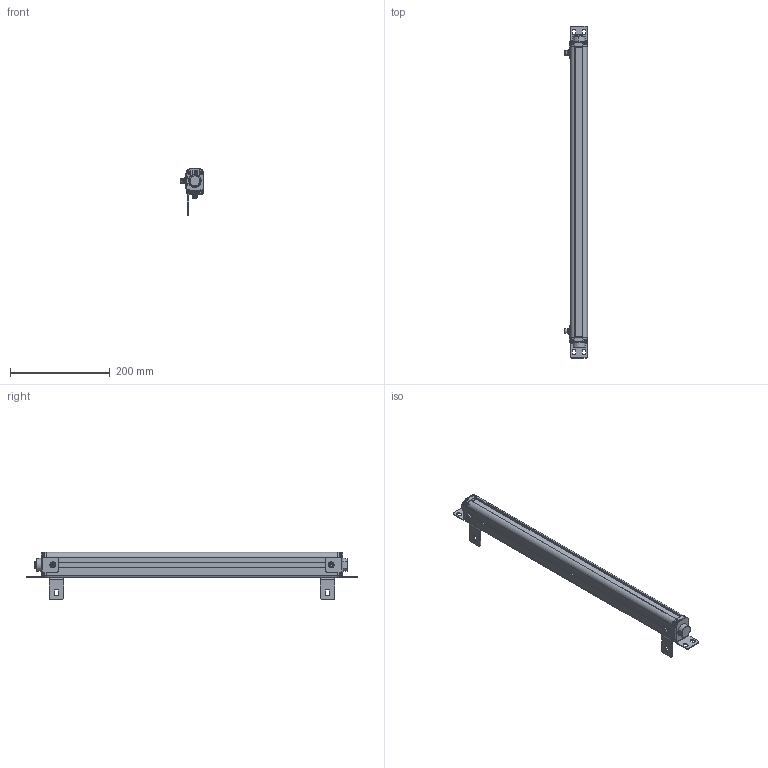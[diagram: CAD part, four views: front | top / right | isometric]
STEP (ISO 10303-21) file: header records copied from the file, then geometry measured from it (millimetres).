
FILE_DESCRIPTION((''),'2;1');
FILE_NAME('ESN--000_ASM','2021-08-10T21:22:00',('18720616900'),(''),'CREO PARAMETRIC BY PTC INC, 2019010','CREO PARAMETRIC BY PTC INC, 2019010','');
FILE_SCHEMA(('CONFIG_CONTROL_DESIGN'));
Products named in the file (22): 00; 000; _0002; _0003; _0004; 5000; 5--0001; ESN_50001_ASM; ST-3-120001; L10001; M6-8--0001; M6-1--00; M6-1-00; M6-80001_ASM; L1--0001_ASM; H1--000; H1--0003_ASM; H1--0001_ASM; ESN--000_ASM
Assembly tree (35 placements, depth 4):
  ESN--000_ASM
    00
    000
    _0002
    _0003
    _0004
    000
    ESN_50001_ASM
      5000
      5--0001  x5
    ST-3-120001  x8
    L1--0001_ASM  x2
      L10001
      M6-80001_ASM
        M6-8--0001
        M6-1--00
        M6-1-00
        00
    H1--0003_ASM
      H1--000
      M6-80001_ASM
        M6-8--0001
        M6-1--00
        M6-1-00
        00
    H1--0001_ASM
      H1--000
      M6-80001_ASM
        M6-8--0001
        M6-1--00
        M6-1-00
        00
Bounding box: 46.5 x 667 x 94.95 mm (x, y, z)
Volume: 924103.7 mm3; surface area: 214138.7 mm2
Topology: 40 solids, 40 shells, 1785 faces, 4708 edges, 3012 vertices
Faces by surface type: plane 583, cylinder 416, bspline 362, cone 291, torus 107, sphere 26
Entity records: 48222 total; most frequent: CARTESIAN_POINT 24957, ORIENTED_EDGE 5136, DIRECTION 4189, EDGE_CURVE 2568, VERTEX_POINT 1669, AXIS2_PLACEMENT_3D 1488, VECTOR 1213, LINE 1213
